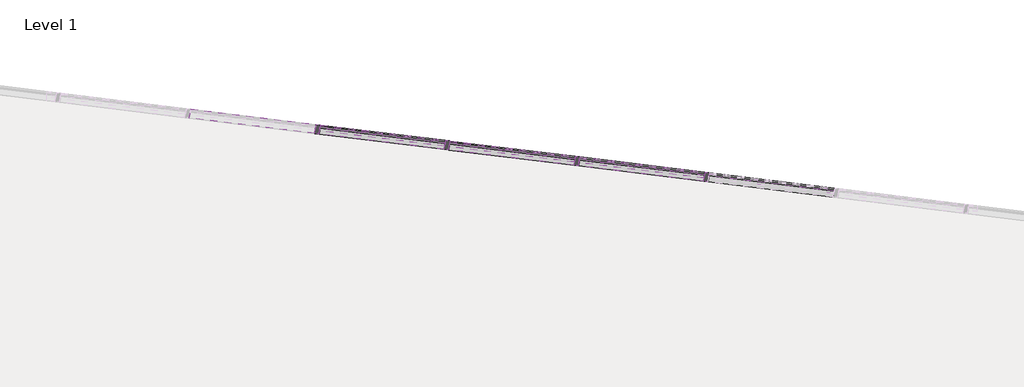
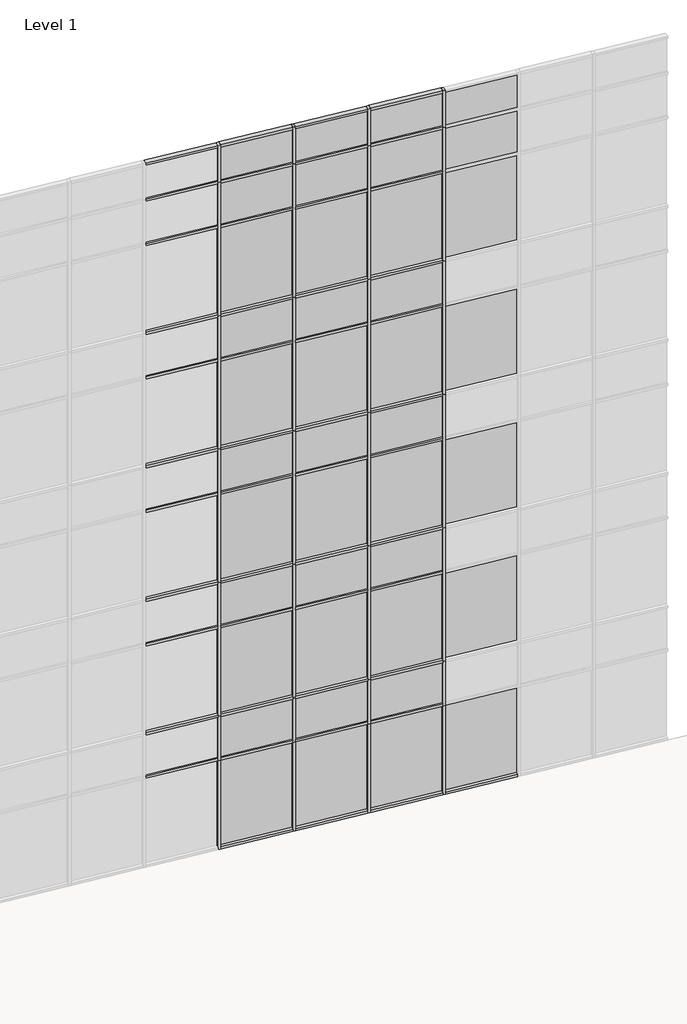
# One storey, part 17 of 23: 76 members, 40 plates.
"""IFC4 building model written with IfcOpenShell, lengths in millimetres."""

from ifc_helpers import new_model, si_unit, origin, place, context, project, spatial, transform, mapped, element, save
from components import member_2b49869a, member_f92b8aa2, member_810865a4, member_f0fea5a5, member_6d5c3e5e, member_9764dd38, system_panel_glazed_14c75400, system_panel_solid_5dfe6f83, system_panel_solid_e25e2004, system_panel_solid_b7551183

model = new_model("IFC4")

# Units and contexts
model_context = context("Model", 3, world=origin())
ifc_project = project(units=[si_unit("LENGTHUNIT", "METRE", prefix="MILLI")], contexts=[model_context])

# Site, building, storey
site = spatial("IfcSite", under=ifc_project)
building = spatial("IfcBuilding", under=site)
storey = spatial("IfcBuildingStorey", under=building, Name="Level 1", Elevation=0.0)

# Members
placement = place(None, origin())
member_shape = member_2b49869a(model_context)
element("IfcMember", 1, ObjectType="Rectangular Mullion : 2.5\" x 5\" rectangular", at=placement, inside=storey, context=model_context, shape_type="MappedRepresentation", body=[
    mapped(member_shape, transform((-20221.8467741, 14354.2917535, 2438.4), x_axis=(0.9925461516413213, -0.12186934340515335, 0.0), y_axis=(-0.12186934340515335, -0.9925461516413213, 0.0), z_axis=(0.0, 0.0, -1.0))),
])
element("IfcMember", 2, ObjectType="Rectangular Mullion : 2.5\" x 5\" rectangular", at=placement, inside=storey, context=model_context, shape_type="MappedRepresentation", body=[
    mapped(member_shape, transform((-14776.3415677, 13685.6677878, 2438.4), x_axis=(0.9925461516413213, -0.12186934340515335, 0.0), y_axis=(-0.12186934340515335, -0.9925461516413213, 0.0), z_axis=(0.0, 0.0, -1.0))),
])
element("IfcMember", 3, ObjectType="Rectangular Mullion : 2.5\" x 5\" rectangular", at=placement, inside=storey, context=model_context, shape_type="MappedRepresentation", body=[
    mapped(member_shape, transform((-16591.5099698, 13908.5424431, 2438.4), x_axis=(0.9925461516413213, -0.12186934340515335, 0.0), y_axis=(-0.12186934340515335, -0.9925461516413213, 0.0), z_axis=(0.0, 0.0, -1.0))),
])
element("IfcMember", 4, ObjectType="Rectangular Mullion : 2.5\" x 5\" rectangular", at=placement, inside=storey, context=model_context, shape_type="MappedRepresentation", body=[
    mapped(member_shape, transform((-18406.678372, 14131.4170983, 2438.4), x_axis=(0.9925461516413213, -0.12186934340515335, 0.0), y_axis=(-0.12186934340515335, -0.9925461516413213, 0.0), z_axis=(0.0, 0.0, -1.0))),
])
member_2_shape = member_f92b8aa2(model_context)
element("IfcMember", 5, ObjectType="Rectangular Mullion : 2.5\" x 5\" rectangular", at=placement, inside=storey, context=model_context, shape_type="MappedRepresentation", body=[
    mapped(member_2_shape, transform((-20221.8467741, 14354.2917535, 18288.0), x_axis=(0.9925461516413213, -0.12186934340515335, 0.0), y_axis=(-0.12186934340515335, -0.9925461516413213, 0.0), z_axis=(0.0, 0.0, -1.0))),
])
element("IfcMember", 6, ObjectType="Rectangular Mullion : 2.5\" x 5\" rectangular", at=placement, inside=storey, context=model_context, shape_type="MappedRepresentation", body=[
    mapped(member_2_shape, transform((-14776.3415677, 13685.6677878, 18288.0), x_axis=(0.9925461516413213, -0.12186934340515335, 0.0), y_axis=(-0.12186934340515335, -0.9925461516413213, 0.0), z_axis=(0.0, 0.0, -1.0))),
])
element("IfcMember", 7, ObjectType="Rectangular Mullion : 2.5\" x 5\" rectangular", at=placement, inside=storey, context=model_context, shape_type="MappedRepresentation", body=[
    mapped(member_2_shape, transform((-16591.5099698, 13908.5424431, 18288.0), x_axis=(0.9925461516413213, -0.12186934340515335, 0.0), y_axis=(-0.12186934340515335, -0.9925461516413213, 0.0), z_axis=(0.0, 0.0, -1.0))),
])
element("IfcMember", 8, ObjectType="Rectangular Mullion : 2.5\" x 5\" rectangular", at=placement, inside=storey, context=model_context, shape_type="MappedRepresentation", body=[
    mapped(member_2_shape, transform((-18406.678372, 14131.4170983, 18288.0), x_axis=(0.9925461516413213, -0.12186934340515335, 0.0), y_axis=(-0.12186934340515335, -0.9925461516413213, 0.0), z_axis=(0.0, 0.0, -1.0))),
])
member_3_shape = member_810865a4(model_context)
element("IfcMember", 9, ObjectType="Rectangular Mullion : 2.5\" x 5\" rectangular", at=placement, inside=storey, context=model_context, shape_type="MappedRepresentation", body=[
    mapped(member_3_shape, transform((-20221.8467741, 14354.2917535, 14630.4), x_axis=(0.9925461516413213, -0.12186934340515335, 0.0), y_axis=(-0.12186934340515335, -0.9925461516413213, 0.0), z_axis=(0.0, 0.0, -1.0))),
])
element("IfcMember", 10, ObjectType="Rectangular Mullion : 2.5\" x 5\" rectangular", at=placement, inside=storey, context=model_context, shape_type="MappedRepresentation", body=[
    mapped(member_3_shape, transform((-20221.8467741, 14354.2917535, 10972.8), x_axis=(0.9925461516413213, -0.12186934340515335, 0.0), y_axis=(-0.12186934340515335, -0.9925461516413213, 0.0), z_axis=(0.0, 0.0, -1.0))),
])
element("IfcMember", 11, ObjectType="Rectangular Mullion : 2.5\" x 5\" rectangular", at=placement, inside=storey, context=model_context, shape_type="MappedRepresentation", body=[
    mapped(member_3_shape, transform((-20221.8467741, 14354.2917535, 7315.2), x_axis=(0.9925461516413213, -0.12186934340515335, 0.0), y_axis=(-0.12186934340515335, -0.9925461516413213, 0.0), z_axis=(0.0, 0.0, -1.0))),
])
element("IfcMember", 12, ObjectType="Rectangular Mullion : 2.5\" x 5\" rectangular", at=placement, inside=storey, context=model_context, shape_type="MappedRepresentation", body=[
    mapped(member_3_shape, transform((-20221.8467741, 14354.2917535, 3657.6), x_axis=(0.9925461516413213, -0.12186934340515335, 0.0), y_axis=(-0.12186934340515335, -0.9925461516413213, 0.0), z_axis=(0.0, 0.0, -1.0))),
])
element("IfcMember", 13, ObjectType="Rectangular Mullion : 2.5\" x 5\" rectangular", at=placement, inside=storey, context=model_context, shape_type="MappedRepresentation", body=[
    mapped(member_3_shape, transform((-14776.3415677, 13685.6677878, 14630.4), x_axis=(0.9925461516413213, -0.12186934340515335, 0.0), y_axis=(-0.12186934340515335, -0.9925461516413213, 0.0), z_axis=(0.0, 0.0, -1.0))),
])
element("IfcMember", 14, ObjectType="Rectangular Mullion : 2.5\" x 5\" rectangular", at=placement, inside=storey, context=model_context, shape_type="MappedRepresentation", body=[
    mapped(member_3_shape, transform((-14776.3415677, 13685.6677878, 10972.8), x_axis=(0.9925461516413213, -0.12186934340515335, 0.0), y_axis=(-0.12186934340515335, -0.9925461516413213, 0.0), z_axis=(0.0, 0.0, -1.0))),
])
element("IfcMember", 15, ObjectType="Rectangular Mullion : 2.5\" x 5\" rectangular", at=placement, inside=storey, context=model_context, shape_type="MappedRepresentation", body=[
    mapped(member_3_shape, transform((-14776.3415677, 13685.6677878, 7315.2), x_axis=(0.9925461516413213, -0.12186934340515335, 0.0), y_axis=(-0.12186934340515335, -0.9925461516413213, 0.0), z_axis=(0.0, 0.0, -1.0))),
])
element("IfcMember", 16, ObjectType="Rectangular Mullion : 2.5\" x 5\" rectangular", at=placement, inside=storey, context=model_context, shape_type="MappedRepresentation", body=[
    mapped(member_3_shape, transform((-14776.3415677, 13685.6677878, 3657.6), x_axis=(0.9925461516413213, -0.12186934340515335, 0.0), y_axis=(-0.12186934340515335, -0.9925461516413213, 0.0), z_axis=(0.0, 0.0, -1.0))),
])
element("IfcMember", 17, ObjectType="Rectangular Mullion : 2.5\" x 5\" rectangular", at=placement, inside=storey, context=model_context, shape_type="MappedRepresentation", body=[
    mapped(member_3_shape, transform((-16591.5099698, 13908.5424431, 14630.4), x_axis=(0.9925461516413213, -0.12186934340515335, 0.0), y_axis=(-0.12186934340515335, -0.9925461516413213, 0.0), z_axis=(0.0, 0.0, -1.0))),
])
element("IfcMember", 18, ObjectType="Rectangular Mullion : 2.5\" x 5\" rectangular", at=placement, inside=storey, context=model_context, shape_type="MappedRepresentation", body=[
    mapped(member_3_shape, transform((-16591.5099698, 13908.5424431, 10972.8), x_axis=(0.9925461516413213, -0.12186934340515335, 0.0), y_axis=(-0.12186934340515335, -0.9925461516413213, 0.0), z_axis=(0.0, 0.0, -1.0))),
])
element("IfcMember", 19, ObjectType="Rectangular Mullion : 2.5\" x 5\" rectangular", at=placement, inside=storey, context=model_context, shape_type="MappedRepresentation", body=[
    mapped(member_3_shape, transform((-16591.5099698, 13908.5424431, 7315.2), x_axis=(0.9925461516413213, -0.12186934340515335, 0.0), y_axis=(-0.12186934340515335, -0.9925461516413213, 0.0), z_axis=(0.0, 0.0, -1.0))),
])
element("IfcMember", 20, ObjectType="Rectangular Mullion : 2.5\" x 5\" rectangular", at=placement, inside=storey, context=model_context, shape_type="MappedRepresentation", body=[
    mapped(member_3_shape, transform((-16591.5099698, 13908.5424431, 3657.6), x_axis=(0.9925461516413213, -0.12186934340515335, 0.0), y_axis=(-0.12186934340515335, -0.9925461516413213, 0.0), z_axis=(0.0, 0.0, -1.0))),
])
element("IfcMember", 21, ObjectType="Rectangular Mullion : 2.5\" x 5\" rectangular", at=placement, inside=storey, context=model_context, shape_type="MappedRepresentation", body=[
    mapped(member_3_shape, transform((-18406.678372, 14131.4170983, 14630.4), x_axis=(0.9925461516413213, -0.12186934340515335, 0.0), y_axis=(-0.12186934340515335, -0.9925461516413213, 0.0), z_axis=(0.0, 0.0, -1.0))),
])
element("IfcMember", 22, ObjectType="Rectangular Mullion : 2.5\" x 5\" rectangular", at=placement, inside=storey, context=model_context, shape_type="MappedRepresentation", body=[
    mapped(member_3_shape, transform((-18406.678372, 14131.4170983, 10972.8), x_axis=(0.9925461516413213, -0.12186934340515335, 0.0), y_axis=(-0.12186934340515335, -0.9925461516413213, 0.0), z_axis=(0.0, 0.0, -1.0))),
])
element("IfcMember", 23, ObjectType="Rectangular Mullion : 2.5\" x 5\" rectangular", at=placement, inside=storey, context=model_context, shape_type="MappedRepresentation", body=[
    mapped(member_3_shape, transform((-18406.678372, 14131.4170983, 7315.2), x_axis=(0.9925461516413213, -0.12186934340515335, 0.0), y_axis=(-0.12186934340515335, -0.9925461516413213, 0.0), z_axis=(0.0, 0.0, -1.0))),
])
element("IfcMember", 24, ObjectType="Rectangular Mullion : 2.5\" x 5\" rectangular", at=placement, inside=storey, context=model_context, shape_type="MappedRepresentation", body=[
    mapped(member_3_shape, transform((-18406.678372, 14131.4170983, 3657.6), x_axis=(0.9925461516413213, -0.12186934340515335, 0.0), y_axis=(-0.12186934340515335, -0.9925461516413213, 0.0), z_axis=(0.0, 0.0, -1.0))),
])
member_4_shape = member_f0fea5a5(model_context)
element("IfcMember", 25, ObjectType="Rectangular Mullion : 2.5\" x 5\" rectangular", at=placement, inside=storey, context=model_context, shape_type="MappedRepresentation", body=[
    mapped(member_4_shape, transform((-18406.678372, 14131.4170983, 0.0), x_axis=(0.9925461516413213, -0.12186934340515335, 0.0), y_axis=(-0.12186934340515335, -0.9925461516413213, 0.0), z_axis=(0.0, 0.0, -1.0))),
])
element("IfcMember", 26, ObjectType="Rectangular Mullion : 2.5\" x 5\" rectangular", at=placement, inside=storey, context=model_context, shape_type="MappedRepresentation", body=[
    mapped(member_4_shape, transform((-16591.5099698, 13908.5424431, 0.0), x_axis=(0.9925461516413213, -0.12186934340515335, 0.0), y_axis=(-0.12186934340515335, -0.9925461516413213, 0.0), z_axis=(0.0, 0.0, -1.0))),
])
element("IfcMember", 27, ObjectType="Rectangular Mullion : 2.5\" x 5\" rectangular", at=placement, inside=storey, context=model_context, shape_type="MappedRepresentation", body=[
    mapped(member_4_shape, transform((-14776.3415677, 13685.6677878, 0.0), x_axis=(0.9925461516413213, -0.12186934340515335, 0.0), y_axis=(-0.12186934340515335, -0.9925461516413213, 0.0), z_axis=(0.0, 0.0, -1.0))),
])
element("IfcMember", 28, ObjectType="Rectangular Mullion : 2.5\" x 5\" rectangular", at=placement, inside=storey, context=model_context, shape_type="MappedRepresentation", body=[
    mapped(member_4_shape, transform((-20221.8467741, 14354.2917535, 0.0), x_axis=(0.9925461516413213, -0.12186934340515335, 0.0), y_axis=(-0.12186934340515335, -0.9925461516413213, 0.0), z_axis=(0.0, 0.0, -1.0))),
])
member_5_shape = member_6d5c3e5e(model_context)
element("IfcMember", 29, ObjectType="Rectangular Mullion : 2.5\" x 5\" rectangular", at=placement, inside=storey, context=model_context, shape_type="MappedRepresentation", body=[
    mapped(member_5_shape, transform((-14807.854908, 13689.5371395, 19304.0), x_axis=(0.0, 0.0, 1.0), y_axis=(-0.12186934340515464, -0.9925461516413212, 0.0), z_axis=(0.9925461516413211, -0.12186934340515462, 0.0))),
])
element("IfcMember", 30, ObjectType="Rectangular Mullion : 2.5\" x 5\" rectangular", at=placement, inside=storey, context=model_context, shape_type="MappedRepresentation", body=[
    mapped(member_5_shape, transform((-16623.0233102, 13912.4117947, 19304.0), x_axis=(0.0, 0.0, 1.0), y_axis=(-0.12186934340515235, -0.9925461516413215, 0.0), z_axis=(0.9925461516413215, -0.12186934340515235, 0.0))),
])
element("IfcMember", 31, ObjectType="Rectangular Mullion : 2.5\" x 5\" rectangular", at=placement, inside=storey, context=model_context, shape_type="MappedRepresentation", body=[
    mapped(member_5_shape, transform((-18438.1917123, 14135.2864499, 19304.0), x_axis=(0.0, 0.0, 1.0), y_axis=(-0.12186934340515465, -0.9925461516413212, 0.0), z_axis=(0.9925461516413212, -0.12186934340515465, 0.0))),
])
element("IfcMember", 32, ObjectType="Rectangular Mullion : 2.5\" x 5\" rectangular", at=placement, inside=storey, context=model_context, shape_type="MappedRepresentation", body=[
    mapped(member_5_shape, transform((-20253.3601144, 14358.1611052, 19304.0), x_axis=(0.0, 0.0, 1.0), y_axis=(-0.12186934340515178, -0.9925461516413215, 0.0), z_axis=(0.9925461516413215, -0.12186934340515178, 0.0))),
])
member_6_shape = member_9764dd38(model_context)
element("IfcMember", 33, ObjectType="Rectangular Mullion : 2.5\" x 5\" rectangular", at=placement, inside=storey, context=model_context, shape_type="MappedRepresentation", body=[
    mapped(member_6_shape, transform((-14807.854908, 13689.5371395, 17068.8), x_axis=(0.0, 0.0, 1.0), y_axis=(-0.12186934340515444, -0.9925461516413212, 0.0), z_axis=(0.9925461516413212, -0.12186934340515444, 0.0))),
])
element("IfcMember", 34, ObjectType="Rectangular Mullion : 2.5\" x 5\" rectangular", at=placement, inside=storey, context=model_context, shape_type="MappedRepresentation", body=[
    mapped(member_6_shape, transform((-16623.0233102, 13912.4117947, 17068.8), x_axis=(0.0, 0.0, 1.0), y_axis=(-0.12186934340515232, -0.9925461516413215, 0.0), z_axis=(0.9925461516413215, -0.12186934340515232, 0.0))),
])
element("IfcMember", 35, ObjectType="Rectangular Mullion : 2.5\" x 5\" rectangular", at=placement, inside=storey, context=model_context, shape_type="MappedRepresentation", body=[
    mapped(member_6_shape, transform((-18438.1917123, 14135.2864499, 17068.8), x_axis=(0.0, 0.0, 1.0), y_axis=(-0.12186934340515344, -0.9925461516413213, 0.0), z_axis=(0.9925461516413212, -0.12186934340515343, 0.0))),
])
element("IfcMember", 36, ObjectType="Rectangular Mullion : 2.5\" x 5\" rectangular", at=placement, inside=storey, context=model_context, shape_type="MappedRepresentation", body=[
    mapped(member_6_shape, transform((-20253.3601144, 14358.1611052, 17068.8), x_axis=(0.0, 0.0, 1.0), y_axis=(-0.12186934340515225, -0.9925461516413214, 0.0), z_axis=(0.9925461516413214, -0.12186934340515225, 0.0))),
])
element("IfcMember", 37, ObjectType="Rectangular Mullion : 2.5\" x 5\" rectangular", at=placement, inside=storey, context=model_context, shape_type="MappedRepresentation", body=[
    mapped(member_6_shape, transform((-14807.854908, 13689.5371395, 13411.2), x_axis=(0.0, 0.0, 1.0), y_axis=(-0.12186934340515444, -0.9925461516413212, 0.0), z_axis=(0.9925461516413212, -0.12186934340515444, 0.0))),
])
element("IfcMember", 38, ObjectType="Rectangular Mullion : 2.5\" x 5\" rectangular", at=placement, inside=storey, context=model_context, shape_type="MappedRepresentation", body=[
    mapped(member_6_shape, transform((-16623.0233102, 13912.4117947, 13411.2), x_axis=(0.0, 0.0, 1.0), y_axis=(-0.12186934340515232, -0.9925461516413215, 0.0), z_axis=(0.9925461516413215, -0.12186934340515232, 0.0))),
])
element("IfcMember", 39, ObjectType="Rectangular Mullion : 2.5\" x 5\" rectangular", at=placement, inside=storey, context=model_context, shape_type="MappedRepresentation", body=[
    mapped(member_6_shape, transform((-18438.1917123, 14135.2864499, 13411.2), x_axis=(0.0, 0.0, 1.0), y_axis=(-0.12186934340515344, -0.9925461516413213, 0.0), z_axis=(0.9925461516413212, -0.12186934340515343, 0.0))),
])
element("IfcMember", 40, ObjectType="Rectangular Mullion : 2.5\" x 5\" rectangular", at=placement, inside=storey, context=model_context, shape_type="MappedRepresentation", body=[
    mapped(member_6_shape, transform((-20253.3601144, 14358.1611052, 13411.2), x_axis=(0.0, 0.0, 1.0), y_axis=(-0.12186934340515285, -0.9925461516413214, 0.0), z_axis=(0.9925461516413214, -0.12186934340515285, 0.0))),
])
element("IfcMember", 41, ObjectType="Rectangular Mullion : 2.5\" x 5\" rectangular", at=placement, inside=storey, context=model_context, shape_type="MappedRepresentation", body=[
    mapped(member_6_shape, transform((-14807.854908, 13689.5371395, 9753.6), x_axis=(0.0, 0.0, 1.0), y_axis=(-0.12186934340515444, -0.9925461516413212, 0.0), z_axis=(0.9925461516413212, -0.12186934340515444, 0.0))),
])
element("IfcMember", 42, ObjectType="Rectangular Mullion : 2.5\" x 5\" rectangular", at=placement, inside=storey, context=model_context, shape_type="MappedRepresentation", body=[
    mapped(member_6_shape, transform((-16623.0233102, 13912.4117947, 9753.6), x_axis=(0.0, 0.0, 1.0), y_axis=(-0.12186934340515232, -0.9925461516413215, 0.0), z_axis=(0.9925461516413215, -0.12186934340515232, 0.0))),
])
element("IfcMember", 43, ObjectType="Rectangular Mullion : 2.5\" x 5\" rectangular", at=placement, inside=storey, context=model_context, shape_type="MappedRepresentation", body=[
    mapped(member_6_shape, transform((-18438.1917123, 14135.2864499, 9753.6), x_axis=(0.0, 0.0, 1.0), y_axis=(-0.12186934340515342, -0.9925461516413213, 0.0), z_axis=(0.9925461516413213, -0.12186934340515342, 0.0))),
])
element("IfcMember", 44, ObjectType="Rectangular Mullion : 2.5\" x 5\" rectangular", at=placement, inside=storey, context=model_context, shape_type="MappedRepresentation", body=[
    mapped(member_6_shape, transform((-20253.3601144, 14358.1611052, 9753.6), x_axis=(0.0, 0.0, 1.0), y_axis=(-0.12186934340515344, -0.9925461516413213, 0.0), z_axis=(0.9925461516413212, -0.12186934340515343, 0.0))),
])
element("IfcMember", 45, ObjectType="Rectangular Mullion : 2.5\" x 5\" rectangular", at=placement, inside=storey, context=model_context, shape_type="MappedRepresentation", body=[
    mapped(member_6_shape, transform((-14807.854908, 13689.5371395, 6096.0), x_axis=(0.0, 0.0, 1.0), y_axis=(-0.12186934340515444, -0.9925461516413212, 0.0), z_axis=(0.9925461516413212, -0.12186934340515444, 0.0))),
])
element("IfcMember", 46, ObjectType="Rectangular Mullion : 2.5\" x 5\" rectangular", at=placement, inside=storey, context=model_context, shape_type="MappedRepresentation", body=[
    mapped(member_6_shape, transform((-16623.0233102, 13912.4117947, 6096.0), x_axis=(0.0, 0.0, 1.0), y_axis=(-0.12186934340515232, -0.9925461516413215, 0.0), z_axis=(0.9925461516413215, -0.12186934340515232, 0.0))),
])
element("IfcMember", 47, ObjectType="Rectangular Mullion : 2.5\" x 5\" rectangular", at=placement, inside=storey, context=model_context, shape_type="MappedRepresentation", body=[
    mapped(member_6_shape, transform((-18438.1917123, 14135.2864499, 6096.0), x_axis=(0.0, 0.0, 1.0), y_axis=(-0.12186934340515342, -0.9925461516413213, 0.0), z_axis=(0.9925461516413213, -0.12186934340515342, 0.0))),
])
element("IfcMember", 48, ObjectType="Rectangular Mullion : 2.5\" x 5\" rectangular", at=placement, inside=storey, context=model_context, shape_type="MappedRepresentation", body=[
    mapped(member_6_shape, transform((-20253.3601144, 14358.1611052, 6096.0), x_axis=(0.0, 0.0, 1.0), y_axis=(-0.12186934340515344, -0.9925461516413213, 0.0), z_axis=(0.9925461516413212, -0.12186934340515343, 0.0))),
])
element("IfcMember", 49, ObjectType="Rectangular Mullion : 2.5\" x 5\" rectangular", at=placement, inside=storey, context=model_context, shape_type="MappedRepresentation", body=[
    mapped(member_6_shape, transform((-14807.854908, 13689.5371395, 2470.15), x_axis=(0.0, 0.0, 1.0), y_axis=(-0.12186934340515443, -0.9925461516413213, 0.0), z_axis=(0.9925461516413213, -0.12186934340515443, 0.0))),
])
element("IfcMember", 50, ObjectType="Rectangular Mullion : 2.5\" x 5\" rectangular", at=placement, inside=storey, context=model_context, shape_type="MappedRepresentation", body=[
    mapped(member_6_shape, transform((-16623.0233102, 13912.4117947, 2470.15), x_axis=(0.0, 0.0, 1.0), y_axis=(-0.12186934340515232, -0.9925461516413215, 0.0), z_axis=(0.9925461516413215, -0.12186934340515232, 0.0))),
])
element("IfcMember", 51, ObjectType="Rectangular Mullion : 2.5\" x 5\" rectangular", at=placement, inside=storey, context=model_context, shape_type="MappedRepresentation", body=[
    mapped(member_6_shape, transform((-18438.1917123, 14135.2864499, 2470.15), x_axis=(0.0, 0.0, 1.0), y_axis=(-0.1218693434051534, -0.9925461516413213, 0.0), z_axis=(0.9925461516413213, -0.1218693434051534, 0.0))),
])
element("IfcMember", 52, ObjectType="Rectangular Mullion : 2.5\" x 5\" rectangular", at=placement, inside=storey, context=model_context, shape_type="MappedRepresentation", body=[
    mapped(member_6_shape, transform((-20253.3601144, 14358.1611052, 2470.15), x_axis=(0.0, 0.0, 1.0), y_axis=(-0.12186934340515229, -0.9925461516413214, 0.0), z_axis=(0.9925461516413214, -0.12186934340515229, 0.0))),
])
element("IfcMember", 53, ObjectType="Rectangular Mullion : 2.5\" x 5\" rectangular", at=placement, inside=storey, context=model_context, shape_type="MappedRepresentation", body=[
    mapped(member_5_shape, transform((-14744.8282274, 13681.7984362, 0.0), x_axis=(0.0, 0.0, -1.0), y_axis=(-0.12186934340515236, -0.9925461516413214, 0.0), z_axis=(-0.9925461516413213, 0.12186934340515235, 0.0))),
])
element("IfcMember", 54, ObjectType="Rectangular Mullion : 2.5\" x 5\" rectangular", at=placement, inside=storey, context=model_context, shape_type="MappedRepresentation", body=[
    mapped(member_5_shape, transform((-16559.9966295, 13904.6730914, 0.0), x_axis=(0.0, 0.0, -1.0), y_axis=(-0.12186934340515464, -0.9925461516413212, 0.0), z_axis=(-0.9925461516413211, 0.12186934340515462, 0.0))),
])
element("IfcMember", 55, ObjectType="Rectangular Mullion : 2.5\" x 5\" rectangular", at=placement, inside=storey, context=model_context, shape_type="MappedRepresentation", body=[
    mapped(member_5_shape, transform((-18375.1650316, 14127.5477466, 0.0), x_axis=(0.0, 0.0, -1.0), y_axis=(-0.12186934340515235, -0.9925461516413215, 0.0), z_axis=(-0.9925461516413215, 0.12186934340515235, 0.0))),
])
element("IfcMember", 56, ObjectType="Rectangular Mullion : 2.5\" x 5\" rectangular", at=placement, inside=storey, context=model_context, shape_type="MappedRepresentation", body=[
    mapped(member_5_shape, transform((-20190.3334338, 14350.4224018, 0.0), x_axis=(0.0, 0.0, -1.0), y_axis=(-0.12186934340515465, -0.9925461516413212, 0.0), z_axis=(-0.9925461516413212, 0.12186934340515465, 0.0))),
])
element("IfcMember", 57, ObjectType="Rectangular Mullion : 2.5\" x 5\" rectangular", at=placement, inside=storey, context=model_context, shape_type="MappedRepresentation", body=[
    mapped(member_6_shape, transform((-14807.854908, 13689.5371395, 3657.6), x_axis=(0.0, 0.0, 1.0), y_axis=(-0.12186934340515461, -0.9925461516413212, 0.0), z_axis=(0.9925461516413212, -0.12186934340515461, 0.0))),
])
element("IfcMember", 58, ObjectType="Rectangular Mullion : 2.5\" x 5\" rectangular", at=placement, inside=storey, context=model_context, shape_type="MappedRepresentation", body=[
    mapped(member_6_shape, transform((-16623.0233102, 13912.4117947, 3657.6), x_axis=(0.0, 0.0, 1.0), y_axis=(-0.12186934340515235, -0.9925461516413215, 0.0), z_axis=(0.9925461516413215, -0.12186934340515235, 0.0))),
])
element("IfcMember", 59, ObjectType="Rectangular Mullion : 2.5\" x 5\" rectangular", at=placement, inside=storey, context=model_context, shape_type="MappedRepresentation", body=[
    mapped(member_6_shape, transform((-18438.1917123, 14135.2864499, 3657.6), x_axis=(0.0, 0.0, 1.0), y_axis=(-0.12186934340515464, -0.9925461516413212, 0.0), z_axis=(0.9925461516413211, -0.12186934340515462, 0.0))),
])
element("IfcMember", 60, ObjectType="Rectangular Mullion : 2.5\" x 5\" rectangular", at=placement, inside=storey, context=model_context, shape_type="MappedRepresentation", body=[
    mapped(member_6_shape, transform((-20253.3601144, 14358.1611052, 3657.6), x_axis=(0.0, 0.0, 1.0), y_axis=(-0.12186934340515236, -0.9925461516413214, 0.0), z_axis=(0.9925461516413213, -0.12186934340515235, 0.0))),
])
element("IfcMember", 61, ObjectType="Rectangular Mullion : 2.5\" x 5\" rectangular", at=placement, inside=storey, context=model_context, shape_type="MappedRepresentation", body=[
    mapped(member_6_shape, transform((-14807.854908, 13689.5371395, 10972.8), x_axis=(0.0, 0.0, 1.0), y_axis=(-0.12186934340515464, -0.9925461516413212, 0.0), z_axis=(0.9925461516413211, -0.12186934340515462, 0.0))),
])
element("IfcMember", 62, ObjectType="Rectangular Mullion : 2.5\" x 5\" rectangular", at=placement, inside=storey, context=model_context, shape_type="MappedRepresentation", body=[
    mapped(member_6_shape, transform((-16623.0233102, 13912.4117947, 10972.8), x_axis=(0.0, 0.0, 1.0), y_axis=(-0.12186934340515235, -0.9925461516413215, 0.0), z_axis=(0.9925461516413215, -0.12186934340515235, 0.0))),
])
element("IfcMember", 63, ObjectType="Rectangular Mullion : 2.5\" x 5\" rectangular", at=placement, inside=storey, context=model_context, shape_type="MappedRepresentation", body=[
    mapped(member_6_shape, transform((-18438.1917123, 14135.2864499, 10972.8), x_axis=(0.0, 0.0, 1.0), y_axis=(-0.12186934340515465, -0.9925461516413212, 0.0), z_axis=(0.9925461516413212, -0.12186934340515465, 0.0))),
])
element("IfcMember", 64, ObjectType="Rectangular Mullion : 2.5\" x 5\" rectangular", at=placement, inside=storey, context=model_context, shape_type="MappedRepresentation", body=[
    mapped(member_6_shape, transform((-20253.3601144, 14358.1611052, 10972.8), x_axis=(0.0, 0.0, 1.0), y_axis=(-0.12186934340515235, -0.9925461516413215, 0.0), z_axis=(0.9925461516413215, -0.12186934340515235, 0.0))),
])
element("IfcMember", 65, ObjectType="Rectangular Mullion : 2.5\" x 5\" rectangular", at=placement, inside=storey, context=model_context, shape_type="MappedRepresentation", body=[
    mapped(member_6_shape, transform((-14807.854908, 13689.5371395, 14630.4), x_axis=(0.0, 0.0, 1.0), y_axis=(-0.12186934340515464, -0.9925461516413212, 0.0), z_axis=(0.9925461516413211, -0.12186934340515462, 0.0))),
])
element("IfcMember", 66, ObjectType="Rectangular Mullion : 2.5\" x 5\" rectangular", at=placement, inside=storey, context=model_context, shape_type="MappedRepresentation", body=[
    mapped(member_6_shape, transform((-16623.0233102, 13912.4117947, 14630.4), x_axis=(0.0, 0.0, 1.0), y_axis=(-0.12186934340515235, -0.9925461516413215, 0.0), z_axis=(0.9925461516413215, -0.12186934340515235, 0.0))),
])
element("IfcMember", 67, ObjectType="Rectangular Mullion : 2.5\" x 5\" rectangular", at=placement, inside=storey, context=model_context, shape_type="MappedRepresentation", body=[
    mapped(member_6_shape, transform((-18438.1917123, 14135.2864499, 14630.4), x_axis=(0.0, 0.0, 1.0), y_axis=(-0.12186934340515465, -0.9925461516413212, 0.0), z_axis=(0.9925461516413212, -0.12186934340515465, 0.0))),
])
element("IfcMember", 68, ObjectType="Rectangular Mullion : 2.5\" x 5\" rectangular", at=placement, inside=storey, context=model_context, shape_type="MappedRepresentation", body=[
    mapped(member_6_shape, transform((-14807.854908, 13689.5371395, 7315.2), x_axis=(0.0, 0.0, 1.0), y_axis=(-0.12186934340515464, -0.9925461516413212, 0.0), z_axis=(0.9925461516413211, -0.12186934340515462, 0.0))),
])
element("IfcMember", 69, ObjectType="Rectangular Mullion : 2.5\" x 5\" rectangular", at=placement, inside=storey, context=model_context, shape_type="MappedRepresentation", body=[
    mapped(member_6_shape, transform((-16623.0233102, 13912.4117947, 7315.2), x_axis=(0.0, 0.0, 1.0), y_axis=(-0.12186934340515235, -0.9925461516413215, 0.0), z_axis=(0.9925461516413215, -0.12186934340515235, 0.0))),
])
element("IfcMember", 70, ObjectType="Rectangular Mullion : 2.5\" x 5\" rectangular", at=placement, inside=storey, context=model_context, shape_type="MappedRepresentation", body=[
    mapped(member_6_shape, transform((-18438.1917123, 14135.2864499, 7315.2), x_axis=(0.0, 0.0, 1.0), y_axis=(-0.12186934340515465, -0.9925461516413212, 0.0), z_axis=(0.9925461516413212, -0.12186934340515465, 0.0))),
])
element("IfcMember", 71, ObjectType="Rectangular Mullion : 2.5\" x 5\" rectangular", at=placement, inside=storey, context=model_context, shape_type="MappedRepresentation", body=[
    mapped(member_6_shape, transform((-20253.3601144, 14358.1611052, 7315.2), x_axis=(0.0, 0.0, 1.0), y_axis=(-0.12186934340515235, -0.9925461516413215, 0.0), z_axis=(0.9925461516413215, -0.12186934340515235, 0.0))),
])
element("IfcMember", 72, ObjectType="Rectangular Mullion : 2.5\" x 5\" rectangular", at=placement, inside=storey, context=model_context, shape_type="MappedRepresentation", body=[
    mapped(member_6_shape, transform((-14807.854908, 13689.5371395, 18288.0), x_axis=(0.0, 0.0, 1.0), y_axis=(-0.12186934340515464, -0.9925461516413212, 0.0), z_axis=(0.9925461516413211, -0.12186934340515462, 0.0))),
])
element("IfcMember", 73, ObjectType="Rectangular Mullion : 2.5\" x 5\" rectangular", at=placement, inside=storey, context=model_context, shape_type="MappedRepresentation", body=[
    mapped(member_6_shape, transform((-16623.0233102, 13912.4117947, 18288.0), x_axis=(0.0, 0.0, 1.0), y_axis=(-0.12186934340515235, -0.9925461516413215, 0.0), z_axis=(0.9925461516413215, -0.12186934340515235, 0.0))),
])
element("IfcMember", 74, ObjectType="Rectangular Mullion : 2.5\" x 5\" rectangular", at=placement, inside=storey, context=model_context, shape_type="MappedRepresentation", body=[
    mapped(member_6_shape, transform((-18438.1917123, 14135.2864499, 18288.0), x_axis=(0.0, 0.0, 1.0), y_axis=(-0.12186934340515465, -0.9925461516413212, 0.0), z_axis=(0.9925461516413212, -0.12186934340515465, 0.0))),
])
element("IfcMember", 75, ObjectType="Rectangular Mullion : 2.5\" x 5\" rectangular", at=placement, inside=storey, context=model_context, shape_type="MappedRepresentation", body=[
    mapped(member_6_shape, transform((-20253.3601144, 14358.1611052, 18288.0), x_axis=(0.0, 0.0, 1.0), y_axis=(-0.12186934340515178, -0.9925461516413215, 0.0), z_axis=(0.9925461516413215, -0.12186934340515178, 0.0))),
])
element("IfcMember", 76, ObjectType="Rectangular Mullion : 2.5\" x 5\" rectangular", at=placement, inside=storey, context=model_context, shape_type="MappedRepresentation", body=[
    mapped(member_6_shape, transform((-20253.3601144, 14358.1611052, 14630.4), x_axis=(0.0, 0.0, 1.0), y_axis=(-0.12186934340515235, -0.9925461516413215, 0.0), z_axis=(0.9925461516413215, -0.12186934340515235, 0.0))),
])

# Plates
system_panel_glazed_shape = system_panel_glazed_14c75400(model_context)
element("IfcPlate", 77, ObjectType="System Panel : Glazed", at=placement, inside=storey, context=model_context, shape_type="MappedRepresentation", body=[
    mapped(system_panel_glazed_shape, transform((-13868.7573667, 13574.2304602, 14662.15), x_axis=(0.9925461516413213, -0.12186934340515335, 0.0), y_axis=(0.12186934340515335, 0.9925461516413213, 0.0), z_axis=(0.0, 0.0, 1.0))),
])
element("IfcPlate", 78, ObjectType="System Panel : Glazed", at=placement, inside=storey, context=model_context, shape_type="MappedRepresentation", body=[
    mapped(system_panel_glazed_shape, transform((-15683.9257688, 13797.1051154, 14662.15), x_axis=(0.9925461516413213, -0.12186934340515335, 0.0), y_axis=(0.12186934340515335, 0.9925461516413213, 0.0), z_axis=(0.0, 0.0, 1.0))),
])
element("IfcPlate", 79, ObjectType="System Panel : Glazed", at=placement, inside=storey, context=model_context, shape_type="MappedRepresentation", body=[
    mapped(system_panel_glazed_shape, transform((-17499.0941709, 14019.9797707, 14662.15), x_axis=(0.9925461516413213, -0.12186934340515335, 0.0), y_axis=(0.12186934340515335, 0.9925461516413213, 0.0), z_axis=(0.0, 0.0, 1.0))),
])
element("IfcPlate", 80, ObjectType="System Panel : Glazed", at=placement, inside=storey, context=model_context, shape_type="MappedRepresentation", body=[
    mapped(system_panel_glazed_shape, transform((-19314.262573, 14242.8544259, 14662.15), x_axis=(0.9925461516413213, -0.12186934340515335, 0.0), y_axis=(0.12186934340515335, 0.9925461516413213, 0.0), z_axis=(0.0, 0.0, 1.0))),
])
element("IfcPlate", 81, ObjectType="System Panel : Glazed", at=placement, inside=storey, context=model_context, shape_type="MappedRepresentation", body=[
    mapped(system_panel_glazed_shape, transform((-13868.7573667, 13574.2304602, 11004.55), x_axis=(0.9925461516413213, -0.12186934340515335, 0.0), y_axis=(0.12186934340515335, 0.9925461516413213, 0.0), z_axis=(0.0, 0.0, 1.0))),
])
element("IfcPlate", 82, ObjectType="System Panel : Glazed", at=placement, inside=storey, context=model_context, shape_type="MappedRepresentation", body=[
    mapped(system_panel_glazed_shape, transform((-15683.9257688, 13797.1051154, 11004.55), x_axis=(0.9925461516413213, -0.12186934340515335, 0.0), y_axis=(0.12186934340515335, 0.9925461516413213, 0.0), z_axis=(0.0, 0.0, 1.0))),
])
element("IfcPlate", 83, ObjectType="System Panel : Glazed", at=placement, inside=storey, context=model_context, shape_type="MappedRepresentation", body=[
    mapped(system_panel_glazed_shape, transform((-17499.0941709, 14019.9797707, 11004.55), x_axis=(0.9925461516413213, -0.12186934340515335, 0.0), y_axis=(0.12186934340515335, 0.9925461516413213, 0.0), z_axis=(0.0, 0.0, 1.0))),
])
element("IfcPlate", 84, ObjectType="System Panel : Glazed", at=placement, inside=storey, context=model_context, shape_type="MappedRepresentation", body=[
    mapped(system_panel_glazed_shape, transform((-19314.262573, 14242.8544259, 11004.55), x_axis=(0.9925461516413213, -0.12186934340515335, 0.0), y_axis=(0.12186934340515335, 0.9925461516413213, 0.0), z_axis=(0.0, 0.0, 1.0))),
])
element("IfcPlate", 85, ObjectType="System Panel : Glazed", at=placement, inside=storey, context=model_context, shape_type="MappedRepresentation", body=[
    mapped(system_panel_glazed_shape, transform((-13868.7573667, 13574.2304602, 7346.95), x_axis=(0.9925461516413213, -0.12186934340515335, 0.0), y_axis=(0.12186934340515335, 0.9925461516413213, 0.0), z_axis=(0.0, 0.0, 1.0))),
])
element("IfcPlate", 86, ObjectType="System Panel : Glazed", at=placement, inside=storey, context=model_context, shape_type="MappedRepresentation", body=[
    mapped(system_panel_glazed_shape, transform((-15683.9257688, 13797.1051154, 7346.95), x_axis=(0.9925461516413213, -0.12186934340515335, 0.0), y_axis=(0.12186934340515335, 0.9925461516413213, 0.0), z_axis=(0.0, 0.0, 1.0))),
])
element("IfcPlate", 87, ObjectType="System Panel : Glazed", at=placement, inside=storey, context=model_context, shape_type="MappedRepresentation", body=[
    mapped(system_panel_glazed_shape, transform((-17499.0941709, 14019.9797707, 7346.95), x_axis=(0.9925461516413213, -0.12186934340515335, 0.0), y_axis=(0.12186934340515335, 0.9925461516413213, 0.0), z_axis=(0.0, 0.0, 1.0))),
])
element("IfcPlate", 88, ObjectType="System Panel : Glazed", at=placement, inside=storey, context=model_context, shape_type="MappedRepresentation", body=[
    mapped(system_panel_glazed_shape, transform((-19314.262573, 14242.8544259, 7346.95), x_axis=(0.9925461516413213, -0.12186934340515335, 0.0), y_axis=(0.12186934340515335, 0.9925461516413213, 0.0), z_axis=(0.0, 0.0, 1.0))),
])
element("IfcPlate", 89, ObjectType="System Panel : Glazed", at=placement, inside=storey, context=model_context, shape_type="MappedRepresentation", body=[
    mapped(system_panel_glazed_shape, transform((-13868.7573667, 13574.2304602, 3689.35), x_axis=(0.9925461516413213, -0.12186934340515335, 0.0), y_axis=(0.12186934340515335, 0.9925461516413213, 0.0), z_axis=(0.0, 0.0, 1.0))),
])
element("IfcPlate", 90, ObjectType="System Panel : Glazed", at=placement, inside=storey, context=model_context, shape_type="MappedRepresentation", body=[
    mapped(system_panel_glazed_shape, transform((-15683.9257688, 13797.1051154, 3689.35), x_axis=(0.9925461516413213, -0.12186934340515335, 0.0), y_axis=(0.12186934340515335, 0.9925461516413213, 0.0), z_axis=(0.0, 0.0, 1.0))),
])
element("IfcPlate", 91, ObjectType="System Panel : Glazed", at=placement, inside=storey, context=model_context, shape_type="MappedRepresentation", body=[
    mapped(system_panel_glazed_shape, transform((-17499.0941709, 14019.9797707, 3689.35), x_axis=(0.9925461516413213, -0.12186934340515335, 0.0), y_axis=(0.12186934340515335, 0.9925461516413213, 0.0), z_axis=(0.0, 0.0, 1.0))),
])
element("IfcPlate", 92, ObjectType="System Panel : Glazed", at=placement, inside=storey, context=model_context, shape_type="MappedRepresentation", body=[
    mapped(system_panel_glazed_shape, transform((-19314.262573, 14242.8544259, 3689.35), x_axis=(0.9925461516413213, -0.12186934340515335, 0.0), y_axis=(0.12186934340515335, 0.9925461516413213, 0.0), z_axis=(0.0, 0.0, 1.0))),
])
element("IfcPlate", 93, ObjectType="System Panel : Glazed", at=placement, inside=storey, context=model_context, shape_type="MappedRepresentation", body=[
    mapped(system_panel_glazed_shape, transform((-13868.7573667, 13574.2304602, 63.5), x_axis=(0.9925461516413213, -0.12186934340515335, 0.0), y_axis=(0.12186934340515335, 0.9925461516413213, 0.0), z_axis=(0.0, 0.0, 1.0))),
])
element("IfcPlate", 94, ObjectType="System Panel : Glazed", at=placement, inside=storey, context=model_context, shape_type="MappedRepresentation", body=[
    mapped(system_panel_glazed_shape, transform((-15683.9257688, 13797.1051154, 63.5), x_axis=(0.9925461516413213, -0.12186934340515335, 0.0), y_axis=(0.12186934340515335, 0.9925461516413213, 0.0), z_axis=(0.0, 0.0, 1.0))),
])
element("IfcPlate", 95, ObjectType="System Panel : Glazed", at=placement, inside=storey, context=model_context, shape_type="MappedRepresentation", body=[
    mapped(system_panel_glazed_shape, transform((-17499.0941709, 14019.9797707, 63.5), x_axis=(0.9925461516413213, -0.12186934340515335, 0.0), y_axis=(0.12186934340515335, 0.9925461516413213, 0.0), z_axis=(0.0, 0.0, 1.0))),
])
element("IfcPlate", 96, ObjectType="System Panel : Glazed", at=placement, inside=storey, context=model_context, shape_type="MappedRepresentation", body=[
    mapped(system_panel_glazed_shape, transform((-19314.262573, 14242.8544259, 63.5), x_axis=(0.9925461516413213, -0.12186934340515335, 0.0), y_axis=(0.12186934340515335, 0.9925461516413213, 0.0), z_axis=(0.0, 0.0, 1.0))),
])
system_panel_solid_shape = system_panel_solid_5dfe6f83(model_context)
element("IfcPlate", 97, ObjectType="System Panel : Solid", at=placement, inside=storey, context=model_context, shape_type="MappedRepresentation", body=[
    mapped(system_panel_solid_shape, transform((-19314.262573, 14242.8544259, 18319.75), x_axis=(0.9925461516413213, -0.12186934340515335, 0.0), y_axis=(0.12186934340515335, 0.9925461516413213, 0.0), z_axis=(0.0, 0.0, 1.0))),
])
element("IfcPlate", 98, ObjectType="System Panel : Solid", at=placement, inside=storey, context=model_context, shape_type="MappedRepresentation", body=[
    mapped(system_panel_solid_shape, transform((-17499.0941709, 14019.9797707, 18319.75), x_axis=(0.9925461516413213, -0.12186934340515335, 0.0), y_axis=(0.12186934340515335, 0.9925461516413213, 0.0), z_axis=(0.0, 0.0, 1.0))),
])
element("IfcPlate", 99, ObjectType="System Panel : Solid", at=placement, inside=storey, context=model_context, shape_type="MappedRepresentation", body=[
    mapped(system_panel_solid_shape, transform((-15683.9257688, 13797.1051154, 18319.75), x_axis=(0.9925461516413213, -0.12186934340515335, 0.0), y_axis=(0.12186934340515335, 0.9925461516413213, 0.0), z_axis=(0.0, 0.0, 1.0))),
])
element("IfcPlate", 100, ObjectType="System Panel : Solid", at=placement, inside=storey, context=model_context, shape_type="MappedRepresentation", body=[
    mapped(system_panel_solid_shape, transform((-13868.7573667, 13574.2304602, 18319.75), x_axis=(0.9925461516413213, -0.12186934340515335, 0.0), y_axis=(0.12186934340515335, 0.9925461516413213, 0.0), z_axis=(0.0, 0.0, 1.0))),
])
system_panel_solid_2_shape = system_panel_solid_e25e2004(model_context)
element("IfcPlate", 101, ObjectType="System Panel : Solid", at=placement, inside=storey, context=model_context, shape_type="MappedRepresentation", body=[
    mapped(system_panel_solid_2_shape, transform((-13868.7573667, 13574.2304602, 17100.55), x_axis=(0.9925461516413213, -0.12186934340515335, 0.0), y_axis=(0.12186934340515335, 0.9925461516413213, 0.0), z_axis=(0.0, 0.0, 1.0))),
])
element("IfcPlate", 102, ObjectType="System Panel : Solid", at=placement, inside=storey, context=model_context, shape_type="MappedRepresentation", body=[
    mapped(system_panel_solid_2_shape, transform((-15683.9257688, 13797.1051154, 17100.55), x_axis=(0.9925461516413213, -0.12186934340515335, 0.0), y_axis=(0.12186934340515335, 0.9925461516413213, 0.0), z_axis=(0.0, 0.0, 1.0))),
])
element("IfcPlate", 103, ObjectType="System Panel : Solid", at=placement, inside=storey, context=model_context, shape_type="MappedRepresentation", body=[
    mapped(system_panel_solid_2_shape, transform((-17499.0941709, 14019.9797707, 17100.55), x_axis=(0.9925461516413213, -0.12186934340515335, 0.0), y_axis=(0.12186934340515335, 0.9925461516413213, 0.0), z_axis=(0.0, 0.0, 1.0))),
])
element("IfcPlate", 104, ObjectType="System Panel : Solid", at=placement, inside=storey, context=model_context, shape_type="MappedRepresentation", body=[
    mapped(system_panel_solid_2_shape, transform((-19314.262573, 14242.8544259, 17100.55), x_axis=(0.9925461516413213, -0.12186934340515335, 0.0), y_axis=(0.12186934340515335, 0.9925461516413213, 0.0), z_axis=(0.0, 0.0, 1.0))),
])
element("IfcPlate", 105, ObjectType="System Panel : Solid", at=placement, inside=storey, context=model_context, shape_type="MappedRepresentation", body=[
    mapped(system_panel_solid_2_shape, transform((-15683.9257688, 13797.1051154, 13442.95), x_axis=(0.9925461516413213, -0.12186934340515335, 0.0), y_axis=(0.12186934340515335, 0.9925461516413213, 0.0), z_axis=(0.0, 0.0, 1.0))),
])
element("IfcPlate", 106, ObjectType="System Panel : Solid", at=placement, inside=storey, context=model_context, shape_type="MappedRepresentation", body=[
    mapped(system_panel_solid_2_shape, transform((-17499.0941709, 14019.9797707, 13442.95), x_axis=(0.9925461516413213, -0.12186934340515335, 0.0), y_axis=(0.12186934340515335, 0.9925461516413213, 0.0), z_axis=(0.0, 0.0, 1.0))),
])
element("IfcPlate", 107, ObjectType="System Panel : Solid", at=placement, inside=storey, context=model_context, shape_type="MappedRepresentation", body=[
    mapped(system_panel_solid_2_shape, transform((-19314.262573, 14242.8544259, 13442.95), x_axis=(0.9925461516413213, -0.12186934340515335, 0.0), y_axis=(0.12186934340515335, 0.9925461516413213, 0.0), z_axis=(0.0, 0.0, 1.0))),
])
element("IfcPlate", 108, ObjectType="System Panel : Solid", at=placement, inside=storey, context=model_context, shape_type="MappedRepresentation", body=[
    mapped(system_panel_solid_2_shape, transform((-15683.9257688, 13797.1051154, 9785.35), x_axis=(0.9925461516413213, -0.12186934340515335, 0.0), y_axis=(0.12186934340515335, 0.9925461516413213, 0.0), z_axis=(0.0, 0.0, 1.0))),
])
element("IfcPlate", 109, ObjectType="System Panel : Solid", at=placement, inside=storey, context=model_context, shape_type="MappedRepresentation", body=[
    mapped(system_panel_solid_2_shape, transform((-17499.0941709, 14019.9797707, 9785.35), x_axis=(0.9925461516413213, -0.12186934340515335, 0.0), y_axis=(0.12186934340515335, 0.9925461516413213, 0.0), z_axis=(0.0, 0.0, 1.0))),
])
element("IfcPlate", 110, ObjectType="System Panel : Solid", at=placement, inside=storey, context=model_context, shape_type="MappedRepresentation", body=[
    mapped(system_panel_solid_2_shape, transform((-19314.262573, 14242.8544259, 9785.35), x_axis=(0.9925461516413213, -0.12186934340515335, 0.0), y_axis=(0.12186934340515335, 0.9925461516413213, 0.0), z_axis=(0.0, 0.0, 1.0))),
])
element("IfcPlate", 111, ObjectType="System Panel : Solid", at=placement, inside=storey, context=model_context, shape_type="MappedRepresentation", body=[
    mapped(system_panel_solid_2_shape, transform((-15683.9257688, 13797.1051154, 6127.75), x_axis=(0.9925461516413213, -0.12186934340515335, 0.0), y_axis=(0.12186934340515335, 0.9925461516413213, 0.0), z_axis=(0.0, 0.0, 1.0))),
])
element("IfcPlate", 112, ObjectType="System Panel : Solid", at=placement, inside=storey, context=model_context, shape_type="MappedRepresentation", body=[
    mapped(system_panel_solid_2_shape, transform((-17499.0941709, 14019.9797707, 6127.75), x_axis=(0.9925461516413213, -0.12186934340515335, 0.0), y_axis=(0.12186934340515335, 0.9925461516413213, 0.0), z_axis=(0.0, 0.0, 1.0))),
])
element("IfcPlate", 113, ObjectType="System Panel : Solid", at=placement, inside=storey, context=model_context, shape_type="MappedRepresentation", body=[
    mapped(system_panel_solid_2_shape, transform((-19314.262573, 14242.8544259, 6127.75), x_axis=(0.9925461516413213, -0.12186934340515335, 0.0), y_axis=(0.12186934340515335, 0.9925461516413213, 0.0), z_axis=(0.0, 0.0, 1.0))),
])
system_panel_solid_3_shape = system_panel_solid_b7551183(model_context)
element("IfcPlate", 114, ObjectType="System Panel : Solid", at=placement, inside=storey, context=model_context, shape_type="MappedRepresentation", body=[
    mapped(system_panel_solid_3_shape, transform((-15683.9257688, 13797.1051154, 2501.9), x_axis=(0.9925461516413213, -0.12186934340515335, 0.0), y_axis=(0.12186934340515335, 0.9925461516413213, 0.0), z_axis=(0.0, 0.0, 1.0))),
])
element("IfcPlate", 115, ObjectType="System Panel : Solid", at=placement, inside=storey, context=model_context, shape_type="MappedRepresentation", body=[
    mapped(system_panel_solid_3_shape, transform((-17499.0941709, 14019.9797707, 2501.9), x_axis=(0.9925461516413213, -0.12186934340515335, 0.0), y_axis=(0.12186934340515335, 0.9925461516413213, 0.0), z_axis=(0.0, 0.0, 1.0))),
])
element("IfcPlate", 116, ObjectType="System Panel : Solid", at=placement, inside=storey, context=model_context, shape_type="MappedRepresentation", body=[
    mapped(system_panel_solid_3_shape, transform((-19314.262573, 14242.8544259, 2501.9), x_axis=(0.9925461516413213, -0.12186934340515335, 0.0), y_axis=(0.12186934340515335, 0.9925461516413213, 0.0), z_axis=(0.0, 0.0, 1.0))),
])

save(model, "model.ifc")
